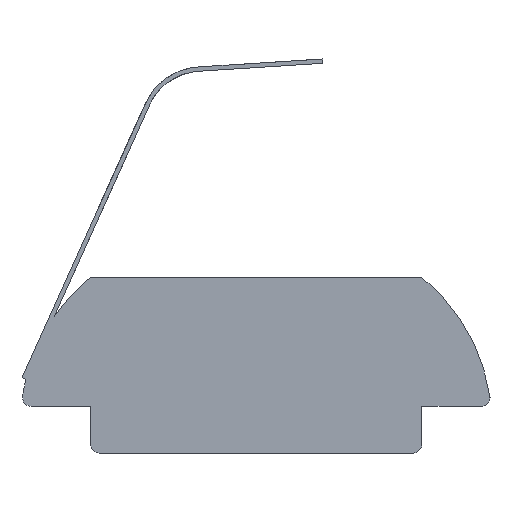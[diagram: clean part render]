
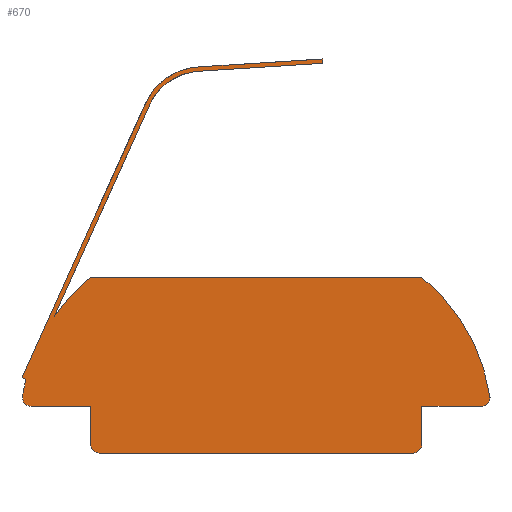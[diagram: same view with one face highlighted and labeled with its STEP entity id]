
A CAD part, left-side view. The second image highlights one B-rep face of the part: STEP entity #670.
In plain terms, the highlighted planar face has unit normal (-1, 0, 0).
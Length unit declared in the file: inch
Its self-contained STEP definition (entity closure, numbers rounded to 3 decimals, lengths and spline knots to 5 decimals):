
#28=CARTESIAN_POINT('',(-0.3937,0.05231,
-0.06907));
#29=DIRECTION('',(-1.,0.,0.));
#30=DIRECTION('',(0.,0.632,0.775));
#31=AXIS2_PLACEMENT_3D('',#28,#29,#30);
#33=DIRECTION('',(0.,1.,0.));
#34=VECTOR('',#33,0.3825);
#35=CARTESIAN_POINT('',(-0.3937,-0.19125,0.1015));
#36=LINE('',#35,#34);
#37=CARTESIAN_POINT('',(-0.3937,-0.05231,
-0.06907));
#38=DIRECTION('',(-1.,0.,0.));
#39=DIRECTION('',(0.,-0.989,0.15));
#40=AXIS2_PLACEMENT_3D('',#37,#38,#39);
#42=CARTESIAN_POINT('',(-0.3937,-0.25992,-0.0375));
#43=DIRECTION('',(-1.,0.,0.));
#44=DIRECTION('',(0.,0.,-1.));
#45=AXIS2_PLACEMENT_3D('',#42,#43,#44);
#47=DIRECTION('',(0.,-1.,0.));
#48=VECTOR('',#47,0.06867);
#49=CARTESIAN_POINT('',(-0.3937,-0.19125,-0.0475));
#50=LINE('',#49,#48);
#51=DIRECTION('',(0.,0.,1.));
#52=VECTOR('',#51,0.044);
#53=CARTESIAN_POINT('',(-0.3937,-0.19125,-0.0915));
#54=LINE('',#53,#52);
#55=CARTESIAN_POINT('',(-0.3937,-0.18125,-0.0915));
#56=DIRECTION('',(-1.,0.,0.));
#57=DIRECTION('',(0.,0.,-1.));
#58=AXIS2_PLACEMENT_3D('',#55,#56,#57);
#60=DIRECTION('',(0.,-1.,0.));
#61=VECTOR('',#60,0.3625);
#62=CARTESIAN_POINT('',(-0.3937,0.18125,-0.1015));
#63=LINE('',#62,#61);
#64=CARTESIAN_POINT('',(-0.3937,0.18125,-0.0915));
#65=DIRECTION('',(-1.,0.,0.));
#66=DIRECTION('',(0.,1.,0.));
#67=AXIS2_PLACEMENT_3D('',#64,#65,#66);
#69=DIRECTION('',(0.,0.,-1.));
#70=VECTOR('',#69,0.044);
#71=CARTESIAN_POINT('',(-0.3937,0.19125,-0.0475));
#72=LINE('',#71,#70);
#73=DIRECTION('',(0.,-1.,0.));
#74=VECTOR('',#73,0.06867);
#75=CARTESIAN_POINT('',(-0.3937,0.25992,-0.0475));
#76=LINE('',#75,#74);
#77=CARTESIAN_POINT('',(-0.3937,0.25992,-0.0375));
#78=DIRECTION('',(-1.,0.,0.));
#79=DIRECTION('',(0.,0.989,0.15));
#80=AXIS2_PLACEMENT_3D('',#77,#78,#79);
#82=CARTESIAN_POINT('',(-0.3937,0.05231,
-0.06907));
#83=DIRECTION('',(-1.,0.,0.));
#84=DIRECTION('',(0.,0.971,0.239));
#85=AXIS2_PLACEMENT_3D('',#82,#83,#84);
#87=DIRECTION('',(0.,-0.912,-0.411));
#88=VECTOR('',#87,0.005);
#89=CARTESIAN_POINT('',(-0.3937,0.2705,
-0.01445));
#90=LINE('',#89,#88);
#91=DIRECTION('',(0.,0.411,-0.912));
#92=VECTOR('',#91,0.35011);
#93=CARTESIAN_POINT('',(-0.3937,0.12677,
0.3048));
#94=LINE('',#93,#92);
#95=CARTESIAN_POINT('',(-0.3937,0.06243,
0.27248));
#96=DIRECTION('',(-1.,0.,0.));
#97=DIRECTION('',(0.,0.037,0.999));
#98=AXIS2_PLACEMENT_3D('',#95,#96,#97);
#100=DIRECTION('',(0.,0.998,-0.064));
#101=VECTOR('',#100,0.14193);
#102=CARTESIAN_POINT('',(-0.3937,-0.07655,
0.35349));
#103=LINE('',#102,#101);
#104=DIRECTION('',(0.,0.064,0.998));
#105=VECTOR('',#104,0.005);
#106=CARTESIAN_POINT('',(-0.3937,-0.07687,0.3485));
#107=LINE('',#106,#105);
#108=DIRECTION('',(0.,-0.998,0.064));
#109=VECTOR('',#108,0.142);
#110=CARTESIAN_POINT('',(-0.3937,0.06484,
0.33944));
#111=LINE('',#110,#109);
#112=CARTESIAN_POINT('',(-0.3937,0.06243,
0.27248));
#113=DIRECTION('',(1.,0.,0.));
#114=DIRECTION('',(0.,0.893,0.45));
#115=AXIS2_PLACEMENT_3D('',#112,#113,#114);
#117=DIRECTION('',(0.,-0.411,0.912));
#118=VECTOR('',#117,0.27049);
#119=CARTESIAN_POINT('',(-0.3937,0.2333,
0.056));
#120=LINE('',#119,#118);
#462=CARTESIAN_POINT('',(-0.3937,0.12677,
0.3048));
#463=CARTESIAN_POINT('',(-0.3937,0.2705,
-0.01445));
#464=VERTEX_POINT('',#462);
#465=VERTEX_POINT('',#463);
#466=CARTESIAN_POINT('',(-0.3937,-0.19125,-0.0475));
#468=VERTEX_POINT('',#466);
#480=CARTESIAN_POINT('',(-0.3937,0.26981,
-0.036));
#481=CARTESIAN_POINT('',(-0.3937,0.25992,-0.0475));
#482=VERTEX_POINT('',#480);
#483=VERTEX_POINT('',#481);
#484=CARTESIAN_POINT('',(-0.3937,0.12226,
0.30265));
#486=VERTEX_POINT('',#484);
#488=CARTESIAN_POINT('',(-0.3937,0.19125,-0.0915));
#489=CARTESIAN_POINT('',(-0.3937,0.18125,-0.1015));
#490=VERTEX_POINT('',#488);
#491=VERTEX_POINT('',#489);
#492=CARTESIAN_POINT('',(-0.3937,-0.26981,
-0.036));
#493=VERTEX_POINT('',#492);
#495=CARTESIAN_POINT('',(-0.3937,0.2333,
0.056));
#497=VERTEX_POINT('',#495);
#502=CARTESIAN_POINT('',(-0.3937,-0.18125,-0.1015));
#503=CARTESIAN_POINT('',(-0.3937,-0.19125,-0.0915));
#504=VERTEX_POINT('',#502);
#505=VERTEX_POINT('',#503);
#511=CARTESIAN_POINT('',(-0.3937,-0.19125,0.1015));
#512=CARTESIAN_POINT('',(-0.3937,0.19125,0.1015));
#513=VERTEX_POINT('',#511);
#514=VERTEX_POINT('',#512);
#519=CARTESIAN_POINT('',(-0.3937,-0.07687,0.3485));
#520=CARTESIAN_POINT('',(-0.3937,-0.07655,
0.35349));
#521=VERTEX_POINT('',#519);
#522=VERTEX_POINT('',#520);
#530=CARTESIAN_POINT('',(-0.3937,0.06484,
0.33944));
#532=VERTEX_POINT('',#530);
#533=CARTESIAN_POINT('',(-0.3937,0.26594,-0.0165));
#535=VERTEX_POINT('',#533);
#537=CARTESIAN_POINT('',(-0.3937,0.19125,-0.0475));
#538=VERTEX_POINT('',#537);
#559=CARTESIAN_POINT('',(-0.3937,-0.25992,-0.0475));
#560=VERTEX_POINT('',#559);
#562=CARTESIAN_POINT('',(-0.3937,0.06509,
0.34444));
#564=VERTEX_POINT('',#562);
#622=CARTESIAN_POINT('',(-0.3937,0.05231,
-0.06907));
#623=DIRECTION('',(-1.,0.,0.));
#624=DIRECTION('',(0.,0.,1.));
#625=AXIS2_PLACEMENT_3D('',#622,#623,#624);
#626=PLANE('',#625);
#628=ORIENTED_EDGE('',*,*,#627,.F.);
#629=ORIENTED_EDGE('',*,*,#606,.F.);
#631=ORIENTED_EDGE('',*,*,#630,.F.);
#633=ORIENTED_EDGE('',*,*,#632,.F.);
#635=ORIENTED_EDGE('',*,*,#634,.F.);
#637=ORIENTED_EDGE('',*,*,#636,.F.);
#639=ORIENTED_EDGE('',*,*,#638,.F.);
#641=ORIENTED_EDGE('',*,*,#640,.F.);
#643=ORIENTED_EDGE('',*,*,#642,.F.);
#645=ORIENTED_EDGE('',*,*,#644,.F.);
#647=ORIENTED_EDGE('',*,*,#646,.F.);
#649=ORIENTED_EDGE('',*,*,#648,.F.);
#651=ORIENTED_EDGE('',*,*,#650,.F.);
#653=ORIENTED_EDGE('',*,*,#652,.F.);
#655=ORIENTED_EDGE('',*,*,#654,.F.);
#657=ORIENTED_EDGE('',*,*,#656,.F.);
#659=ORIENTED_EDGE('',*,*,#658,.F.);
#661=ORIENTED_EDGE('',*,*,#660,.F.);
#663=ORIENTED_EDGE('',*,*,#662,.F.);
#665=ORIENTED_EDGE('',*,*,#664,.F.);
#667=ORIENTED_EDGE('',*,*,#666,.F.);
#668=EDGE_LOOP('',(#628,#629,#631,#633,#635,#637,#639,#641,#643,#645,#647,#649,
#651,#653,#655,#657,#659,#661,#663,#665,#667));
#669=FACE_OUTER_BOUND('',#668,.F.);
#32=CIRCLE('',#31,0.22);
#41=CIRCLE('',#40,0.22);
#46=CIRCLE('',#45,0.01);
#59=CIRCLE('',#58,0.01);
#68=CIRCLE('',#67,0.01);
#81=CIRCLE('',#80,0.01);
#86=CIRCLE('',#85,0.22);
#99=CIRCLE('',#98,0.072);
#116=CIRCLE('',#115,0.067);
#606=EDGE_CURVE('',#513,#514,#36,.T.);
#627=EDGE_CURVE('',#514,#497,#32,.T.);
#630=EDGE_CURVE('',#493,#513,#41,.T.);
#632=EDGE_CURVE('',#560,#493,#46,.T.);
#634=EDGE_CURVE('',#468,#560,#50,.T.);
#636=EDGE_CURVE('',#505,#468,#54,.T.);
#638=EDGE_CURVE('',#504,#505,#59,.T.);
#640=EDGE_CURVE('',#491,#504,#63,.T.);
#642=EDGE_CURVE('',#490,#491,#68,.T.);
#644=EDGE_CURVE('',#538,#490,#72,.T.);
#646=EDGE_CURVE('',#483,#538,#76,.T.);
#648=EDGE_CURVE('',#482,#483,#81,.T.);
#650=EDGE_CURVE('',#535,#482,#86,.T.);
#652=EDGE_CURVE('',#465,#535,#90,.T.);
#654=EDGE_CURVE('',#464,#465,#94,.T.);
#656=EDGE_CURVE('',#564,#464,#99,.T.);
#658=EDGE_CURVE('',#522,#564,#103,.T.);
#660=EDGE_CURVE('',#521,#522,#107,.T.);
#662=EDGE_CURVE('',#532,#521,#111,.T.);
#664=EDGE_CURVE('',#486,#532,#116,.T.);
#666=EDGE_CURVE('',#497,#486,#120,.T.);
#670=ADVANCED_FACE('',(#669),#626,.T.);
